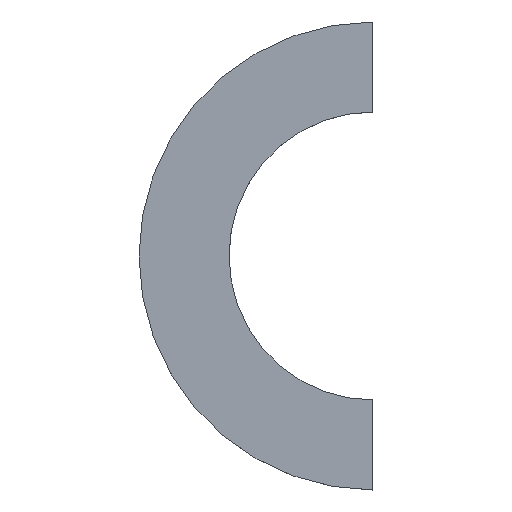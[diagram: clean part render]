
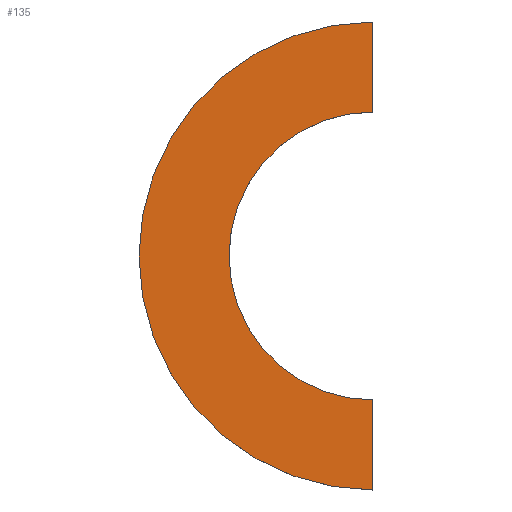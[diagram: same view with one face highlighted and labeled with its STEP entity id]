
A CAD part, top view. The second image highlights one B-rep face of the part: STEP entity #135.
In plain terms, the highlighted planar face has unit normal (0, 0, 1).
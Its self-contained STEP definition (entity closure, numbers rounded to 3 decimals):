
#21 = EDGE_CURVE('',#22,#24,#26,.T.);
#22 = VERTEX_POINT('',#23);
#23 = CARTESIAN_POINT('',(0.,4.9,-0.55));
#24 = VERTEX_POINT('',#25);
#25 = CARTESIAN_POINT('',(0.,-4.9,-0.55));
#26 = SURFACE_CURVE('',#27,(#32,#44),.PCURVE_S1.);
#27 = CIRCLE('',#28,4.9);
#28 = AXIS2_PLACEMENT_3D('',#29,#30,#31);
#29 = CARTESIAN_POINT('',(0.,0.,-0.55));
#30 = DIRECTION('',(0.,0.,1.));
#31 = DIRECTION('',(1.,0.,-0.));
#32 = PCURVE('',#33,#38);
#33 = CYLINDRICAL_SURFACE('',#34,4.9);
#34 = AXIS2_PLACEMENT_3D('',#35,#36,#37);
#35 = CARTESIAN_POINT('',(0.,0.,-0.9));
#36 = DIRECTION('',(0.,0.,1.));
#37 = DIRECTION('',(1.,0.,-0.));
#38 = DEFINITIONAL_REPRESENTATION('',(#39),#43);
#39 = LINE('',#40,#41);
#40 = CARTESIAN_POINT('',(0.,0.35));
#41 = VECTOR('',#42,1.);
#42 = DIRECTION('',(1.,0.));
#43 = ( GEOMETRIC_REPRESENTATION_CONTEXT(2) 
PARAMETRIC_REPRESENTATION_CONTEXT() REPRESENTATION_CONTEXT('2D SPACE',''
  ) );
#44 = PCURVE('',#45,#50);
#45 = PLANE('',#46);
#46 = AXIS2_PLACEMENT_3D('',#47,#48,#49);
#47 = CARTESIAN_POINT('',(0.,0.,-0.55));
#48 = DIRECTION('',(0.,0.,1.));
#49 = DIRECTION('',(1.,0.,-0.));
#50 = DEFINITIONAL_REPRESENTATION('',(#51),#55);
#51 = CIRCLE('',#52,4.9);
#52 = AXIS2_PLACEMENT_2D('',#53,#54);
#53 = CARTESIAN_POINT('',(0.,0.));
#54 = DIRECTION('',(1.,0.));
#55 = ( GEOMETRIC_REPRESENTATION_CONTEXT(2) 
PARAMETRIC_REPRESENTATION_CONTEXT() REPRESENTATION_CONTEXT('2D SPACE',''
  ) );
#72 = PLANE('',#73);
#73 = AXIS2_PLACEMENT_3D('',#74,#75,#76);
#74 = CARTESIAN_POINT('',(0.,-50.,-50.));
#75 = DIRECTION('',(1.,0.,0.));
#76 = DIRECTION('',(0.,0.,1.));
#125 = PLANE('',#126);
#126 = AXIS2_PLACEMENT_3D('',#127,#128,#129);
#127 = CARTESIAN_POINT('',(0.,-50.,-50.));
#128 = DIRECTION('',(1.,0.,0.));
#129 = DIRECTION('',(0.,0.,1.));
#135 = ADVANCED_FACE('',(#136),#45,.T.);
#136 = FACE_BOUND('',#137,.T.);
#137 = EDGE_LOOP('',(#138,#159,#160,#181));
#138 = ORIENTED_EDGE('',*,*,#139,.T.);
#139 = EDGE_CURVE('',#140,#22,#142,.T.);
#140 = VERTEX_POINT('',#141);
#141 = CARTESIAN_POINT('',(0.,3.015,-0.55));
#142 = SURFACE_CURVE('',#143,(#147,#153),.PCURVE_S1.);
#143 = LINE('',#144,#145);
#144 = CARTESIAN_POINT('',(0.,-25.,-0.55));
#145 = VECTOR('',#146,1.);
#146 = DIRECTION('',(0.,1.,0.));
#147 = PCURVE('',#45,#148);
#148 = DEFINITIONAL_REPRESENTATION('',(#149),#152);
#149 = B_SPLINE_CURVE_WITH_KNOTS('',1,(#150,#151),.UNSPECIFIED.,.F.,.F.,
  (2,2),(20.1,29.9),.PIECEWISE_BEZIER_KNOTS.);
#150 = CARTESIAN_POINT('',(0.,-4.9));
#151 = CARTESIAN_POINT('',(0.,4.9));
#152 = ( GEOMETRIC_REPRESENTATION_CONTEXT(2) 
PARAMETRIC_REPRESENTATION_CONTEXT() REPRESENTATION_CONTEXT('2D SPACE',''
  ) );
#153 = PCURVE('',#72,#154);
#154 = DEFINITIONAL_REPRESENTATION('',(#155),#158);
#155 = B_SPLINE_CURVE_WITH_KNOTS('',1,(#156,#157),.UNSPECIFIED.,.F.,.F.,
  (2,2),(20.1,29.9),.PIECEWISE_BEZIER_KNOTS.);
#156 = CARTESIAN_POINT('',(49.45,-45.1));
#157 = CARTESIAN_POINT('',(49.45,-54.9));
#158 = ( GEOMETRIC_REPRESENTATION_CONTEXT(2) 
PARAMETRIC_REPRESENTATION_CONTEXT() REPRESENTATION_CONTEXT('2D SPACE',''
  ) );
#159 = ORIENTED_EDGE('',*,*,#21,.T.);
#160 = ORIENTED_EDGE('',*,*,#161,.T.);
#161 = EDGE_CURVE('',#24,#162,#164,.T.);
#162 = VERTEX_POINT('',#163);
#163 = CARTESIAN_POINT('',(0.,-3.015,-0.55));
#164 = SURFACE_CURVE('',#165,(#169,#175),.PCURVE_S1.);
#165 = LINE('',#166,#167);
#166 = CARTESIAN_POINT('',(0.,-25.,-0.55));
#167 = VECTOR('',#168,1.);
#168 = DIRECTION('',(0.,1.,0.));
#169 = PCURVE('',#45,#170);
#170 = DEFINITIONAL_REPRESENTATION('',(#171),#174);
#171 = B_SPLINE_CURVE_WITH_KNOTS('',1,(#172,#173),.UNSPECIFIED.,.F.,.F.,
  (2,2),(20.1,29.9),.PIECEWISE_BEZIER_KNOTS.);
#172 = CARTESIAN_POINT('',(0.,-4.9));
#173 = CARTESIAN_POINT('',(0.,4.9));
#174 = ( GEOMETRIC_REPRESENTATION_CONTEXT(2) 
PARAMETRIC_REPRESENTATION_CONTEXT() REPRESENTATION_CONTEXT('2D SPACE',''
  ) );
#175 = PCURVE('',#125,#176);
#176 = DEFINITIONAL_REPRESENTATION('',(#177),#180);
#177 = B_SPLINE_CURVE_WITH_KNOTS('',1,(#178,#179),.UNSPECIFIED.,.F.,.F.,
  (2,2),(20.1,29.9),.PIECEWISE_BEZIER_KNOTS.);
#178 = CARTESIAN_POINT('',(49.45,-45.1));
#179 = CARTESIAN_POINT('',(49.45,-54.9));
#180 = ( GEOMETRIC_REPRESENTATION_CONTEXT(2) 
PARAMETRIC_REPRESENTATION_CONTEXT() REPRESENTATION_CONTEXT('2D SPACE',''
  ) );
#181 = ORIENTED_EDGE('',*,*,#182,.F.);
#182 = EDGE_CURVE('',#140,#162,#183,.T.);
#183 = SURFACE_CURVE('',#184,(#189,#196),.PCURVE_S1.);
#184 = CIRCLE('',#185,3.015);
#185 = AXIS2_PLACEMENT_3D('',#186,#187,#188);
#186 = CARTESIAN_POINT('',(0.,0.,-0.55));
#187 = DIRECTION('',(0.,0.,1.));
#188 = DIRECTION('',(1.,0.,-0.));
#189 = PCURVE('',#45,#190);
#190 = DEFINITIONAL_REPRESENTATION('',(#191),#195);
#191 = CIRCLE('',#192,3.015);
#192 = AXIS2_PLACEMENT_2D('',#193,#194);
#193 = CARTESIAN_POINT('',(0.,0.));
#194 = DIRECTION('',(1.,0.));
#195 = ( GEOMETRIC_REPRESENTATION_CONTEXT(2) 
PARAMETRIC_REPRESENTATION_CONTEXT() REPRESENTATION_CONTEXT('2D SPACE',''
  ) );
#196 = PCURVE('',#197,#202);
#197 = CYLINDRICAL_SURFACE('',#198,3.015);
#198 = AXIS2_PLACEMENT_3D('',#199,#200,#201);
#199 = CARTESIAN_POINT('',(0.,0.,-0.91));
#200 = DIRECTION('',(0.,0.,1.));
#201 = DIRECTION('',(1.,0.,-0.));
#202 = DEFINITIONAL_REPRESENTATION('',(#203),#207);
#203 = LINE('',#204,#205);
#204 = CARTESIAN_POINT('',(0.,0.36));
#205 = VECTOR('',#206,1.);
#206 = DIRECTION('',(1.,0.));
#207 = ( GEOMETRIC_REPRESENTATION_CONTEXT(2) 
PARAMETRIC_REPRESENTATION_CONTEXT() REPRESENTATION_CONTEXT('2D SPACE',''
  ) );
